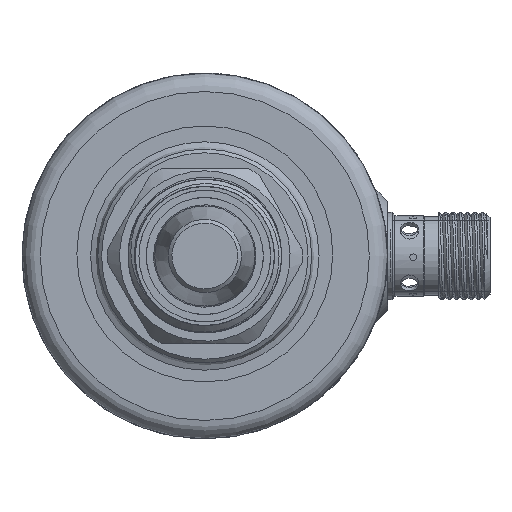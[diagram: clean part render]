
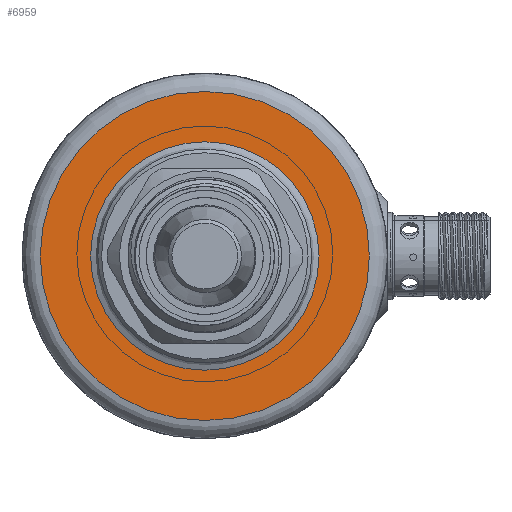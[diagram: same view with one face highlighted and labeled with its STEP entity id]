
A CAD part, front view. The second image highlights one B-rep face of the part: STEP entity #6959.
In plain terms, the highlighted planar face has unit normal (0, -1, 0) as drawn and (-1, 0, 0) by its records, which use the part's own axes.
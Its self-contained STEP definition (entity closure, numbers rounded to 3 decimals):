
#655 = CARTESIAN_POINT ( 'NONE',  ( 41., 0., -15.895 ) ) ;
#679 = EDGE_CURVE ( 'NONE', #2685, #2685, #2202, .T. ) ;
#1465 = EDGE_LOOP ( 'NONE', ( #2446 ) ) ;
#1643 = EDGE_CURVE ( 'NONE', #10467, #10467, #11592, .T. ) ;
#1780 = DIRECTION ( 'NONE',  ( 0., 0., -1. ) ) ;
#2202 = CIRCLE ( 'NONE', #13656, 15.62 ) ;
#2446 = ORIENTED_EDGE ( 'NONE', *, *, #1643, .T. ) ;
#2610 = FACE_BOUND ( 'NONE', #7895, .T. ) ;
#2685 = VERTEX_POINT ( 'NONE', #655 ) ;
#3147 = DIRECTION ( 'NONE',  ( 1., 0., 0. ) ) ;
#3612 = DIRECTION ( 'NONE',  ( -1., 0., 0. ) ) ;
#3863 = PLANE ( 'NONE',  #4648 ) ;
#4401 = DIRECTION ( 'NONE',  ( 0., 0., -1. ) ) ;
#4648 = AXIS2_PLACEMENT_3D ( 'NONE', #12389, #10072, #1780 ) ;
#5462 = CARTESIAN_POINT ( 'NONE',  ( 41., 0., -0.275 ) ) ;
#6959 = ADVANCED_FACE ( 'NONE', ( #2610, #6971 ), #3863, .F. ) ;
#6971 = FACE_OUTER_BOUND ( 'NONE', #1465, .T. ) ;
#7895 = EDGE_LOOP ( 'NONE', ( #12332 ) ) ;
#10072 = DIRECTION ( 'NONE',  ( 1., 0., 0. ) ) ;
#10467 = VERTEX_POINT ( 'NONE', #13779 ) ;
#11592 = CIRCLE ( 'NONE', #13614, 22.5 ) ;
#12332 = ORIENTED_EDGE ( 'NONE', *, *, #679, .T. ) ;
#12343 = CARTESIAN_POINT ( 'NONE',  ( 41., 0., -0.275 ) ) ;
#12389 = CARTESIAN_POINT ( 'NONE',  ( 41., 0., -0.275 ) ) ;
#13522 = DIRECTION ( 'NONE',  ( 0., 0., -1. ) ) ;
#13614 = AXIS2_PLACEMENT_3D ( 'NONE', #12343, #3612, #13522 ) ;
#13656 = AXIS2_PLACEMENT_3D ( 'NONE', #5462, #3147, #4401 ) ;
#13779 = CARTESIAN_POINT ( 'NONE',  ( 41., 0., -22.775 ) ) ;
